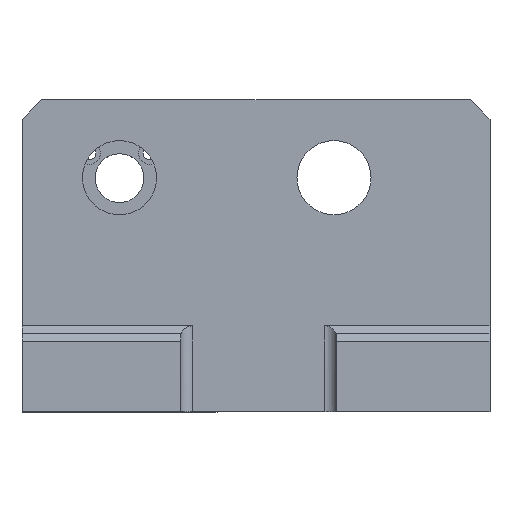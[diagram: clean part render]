
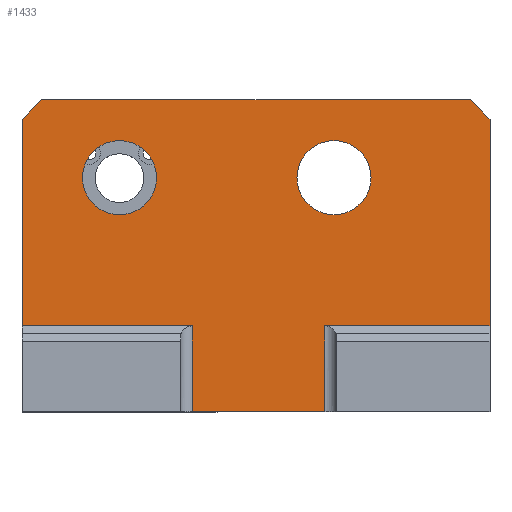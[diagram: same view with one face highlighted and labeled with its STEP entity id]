
A CAD part, top view. The second image highlights one B-rep face of the part: STEP entity #1433.
In plain terms, the highlighted planar face has unit normal (0, 0, 1).
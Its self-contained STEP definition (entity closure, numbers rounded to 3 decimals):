
#46=FACE_BOUND('',#221,.T.);
#47=FACE_BOUND('',#222,.T.);
#79=PLANE('',#1545);
#137=FACE_OUTER_BOUND('',#220,.T.);
#220=EDGE_LOOP('',(#1018,#1019,#1020,#1021,#1022,#1023,#1024,#1025,#1026,
#1027));
#221=EDGE_LOOP('',(#1028));
#222=EDGE_LOOP('',(#1029));
#341=LINE('',#2160,#479);
#346=LINE('',#2175,#484);
#348=LINE('',#2182,#486);
#349=LINE('',#2184,#487);
#350=LINE('',#2186,#488);
#351=LINE('',#2188,#489);
#352=LINE('',#2190,#490);
#353=LINE('',#2192,#491);
#354=LINE('',#2194,#492);
#355=LINE('',#2195,#493);
#479=VECTOR('',#1703,10.);
#484=VECTOR('',#1716,10.);
#486=VECTOR('',#1724,10.);
#487=VECTOR('',#1725,10.);
#488=VECTOR('',#1726,10.);
#489=VECTOR('',#1727,10.);
#490=VECTOR('',#1728,10.);
#491=VECTOR('',#1729,10.);
#492=VECTOR('',#1730,10.);
#493=VECTOR('',#1731,10.);
#620=CIRCLE('',#1546,9.5);
#621=CIRCLE('',#1547,9.5);
#673=VERTEX_POINT('',#2157);
#674=VERTEX_POINT('',#2159);
#678=VERTEX_POINT('',#2171);
#680=VERTEX_POINT('',#2174);
#683=VERTEX_POINT('',#2183);
#684=VERTEX_POINT('',#2185);
#685=VERTEX_POINT('',#2187);
#686=VERTEX_POINT('',#2189);
#687=VERTEX_POINT('',#2191);
#688=VERTEX_POINT('',#2193);
#689=VERTEX_POINT('',#2196);
#690=VERTEX_POINT('',#2198);
#806=EDGE_CURVE('',#673,#674,#341,.T.);
#813=EDGE_CURVE('',#678,#680,#346,.T.);
#817=EDGE_CURVE('',#680,#673,#348,.T.);
#818=EDGE_CURVE('',#683,#678,#349,.T.);
#819=EDGE_CURVE('',#683,#684,#350,.T.);
#820=EDGE_CURVE('',#685,#684,#351,.T.);
#821=EDGE_CURVE('',#685,#686,#352,.T.);
#822=EDGE_CURVE('',#687,#686,#353,.T.);
#823=EDGE_CURVE('',#687,#688,#354,.T.);
#824=EDGE_CURVE('',#674,#688,#355,.T.);
#825=EDGE_CURVE('',#689,#689,#620,.T.);
#826=EDGE_CURVE('',#690,#690,#621,.T.);
#1018=ORIENTED_EDGE('',*,*,#806,.F.);
#1019=ORIENTED_EDGE('',*,*,#817,.F.);
#1020=ORIENTED_EDGE('',*,*,#813,.F.);
#1021=ORIENTED_EDGE('',*,*,#818,.F.);
#1022=ORIENTED_EDGE('',*,*,#819,.T.);
#1023=ORIENTED_EDGE('',*,*,#820,.F.);
#1024=ORIENTED_EDGE('',*,*,#821,.T.);
#1025=ORIENTED_EDGE('',*,*,#822,.F.);
#1026=ORIENTED_EDGE('',*,*,#823,.T.);
#1027=ORIENTED_EDGE('',*,*,#824,.F.);
#1028=ORIENTED_EDGE('',*,*,#825,.T.);
#1029=ORIENTED_EDGE('',*,*,#826,.T.);
#1433=ADVANCED_FACE('',(#137,#46,#47),#79,.T.);
#1545=AXIS2_PLACEMENT_3D('',#2181,#1722,#1723);
#1546=AXIS2_PLACEMENT_3D('',#2197,#1732,#1733);
#1547=AXIS2_PLACEMENT_3D('',#2199,#1734,#1735);
#1703=DIRECTION('',(0.,1.,0.));
#1716=DIRECTION('',(0.,-1.,0.));
#1722=DIRECTION('center_axis',(0.,0.,1.));
#1723=DIRECTION('ref_axis',(1.,0.,0.));
#1724=DIRECTION('',(-1.,0.,0.));
#1725=DIRECTION('',(-1.,0.,0.));
#1726=DIRECTION('',(0.,1.,0.));
#1727=DIRECTION('',(0.707,-0.707,0.));
#1728=DIRECTION('',(-1.,0.,0.));
#1729=DIRECTION('',(0.707,0.707,0.));
#1730=DIRECTION('',(0.,-1.,0.));
#1731=DIRECTION('',(-1.,0.,0.));
#1732=DIRECTION('center_axis',(0.,0.,-1.));
#1733=DIRECTION('ref_axis',(-1.,0.,0.));
#1734=DIRECTION('center_axis',(0.,0.,-1.));
#1735=DIRECTION('ref_axis',(-1.,0.,0.));
#2157=CARTESIAN_POINT('',(-31.309,-60.,30.));
#2159=CARTESIAN_POINT('',(-31.309,-38.,30.));
#2160=CARTESIAN_POINT('',(-31.309,-25.,30.));
#2171=CARTESIAN_POINT('',(2.691,-38.,30.));
#2174=CARTESIAN_POINT('',(2.691,-60.,30.));
#2175=CARTESIAN_POINT('',(2.691,-25.,30.));
#2181=CARTESIAN_POINT('Origin',(-15.,-10.,30.));
#2182=CARTESIAN_POINT('',(-4.655,-60.,30.));
#2183=CARTESIAN_POINT('',(45.,-38.,30.));
#2184=CARTESIAN_POINT('',(-15.,-38.,30.));
#2185=CARTESIAN_POINT('',(45.,15.,30.));
#2186=CARTESIAN_POINT('',(45.,-40.,30.));
#2187=CARTESIAN_POINT('',(40.,20.,30.));
#2188=CARTESIAN_POINT('',(35.,25.,30.));
#2189=CARTESIAN_POINT('',(-70.,20.,30.));
#2190=CARTESIAN_POINT('',(45.,20.,30.));
#2191=CARTESIAN_POINT('',(-75.,15.,30.));
#2192=CARTESIAN_POINT('',(-65.,25.,30.));
#2193=CARTESIAN_POINT('',(-75.,-38.,30.));
#2194=CARTESIAN_POINT('',(-75.,20.,30.));
#2195=CARTESIAN_POINT('',(-15.,-38.,30.));
#2196=CARTESIAN_POINT('',(-40.5,0.,30.));
#2197=CARTESIAN_POINT('Origin',(-50.,0.,30.));
#2198=CARTESIAN_POINT('',(14.5,0.,30.));
#2199=CARTESIAN_POINT('Origin',(5.,0.,
30.));
